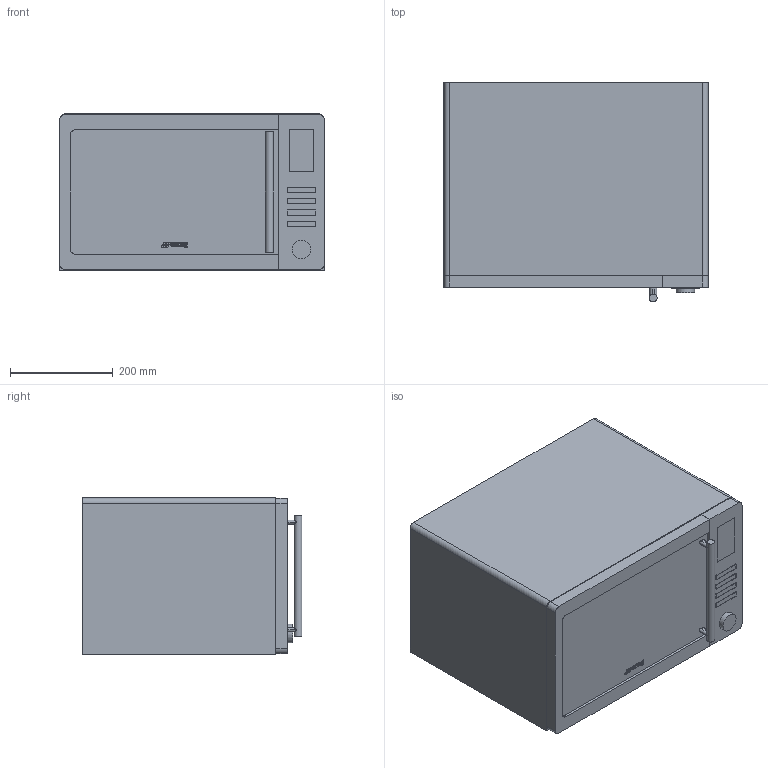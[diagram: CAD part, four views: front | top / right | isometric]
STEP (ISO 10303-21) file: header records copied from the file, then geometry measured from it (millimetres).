
FILE_DESCRIPTION(/* description */ (''),/* implementation_level */ '2;1');
FILE_NAME(/* name */ 'forno moe25.stp',/* time_stamp */ '2018-07-26T16:46:26+02:00',/* author */ (''),/* organization */ (''),/* preprocessor_version */ 'ST-DEVELOPER v16',/* originating_system */ 'SIEMENS PLM Software NX 11.0',/* authorisation */ '');
FILE_SCHEMA (('AUTOMOTIVE_DESIGN { 1 0 10303 214 3 1 1 1 }'));
Length unit declared in the file: millimetre
Products named in the file (1): gobb1B3C90CFgovu
Bounding box: 514 x 427.5 x 304 mm (x, y, z)
Volume: 61926202.7 mm3; surface area: 1670342.9 mm2
Topology: 22 solids, 22 shells, 181 faces, 396 edges, 264 vertices
Faces by surface type: plane 123, cylinder 47, extrusion 11
Full cylindrical faces by diameter (mm): 4.608 x6, 6 x2, 15 x1, 25 x1, 36 x1
Entity records: 5327 total; most frequent: CARTESIAN_POINT 1189, DIRECTION 796, ORIENTED_EDGE 768, EDGE_CURVE 384, VECTOR 274, VERTEX_POINT 264, LINE 263, AXIS2_PLACEMENT_3D 261
